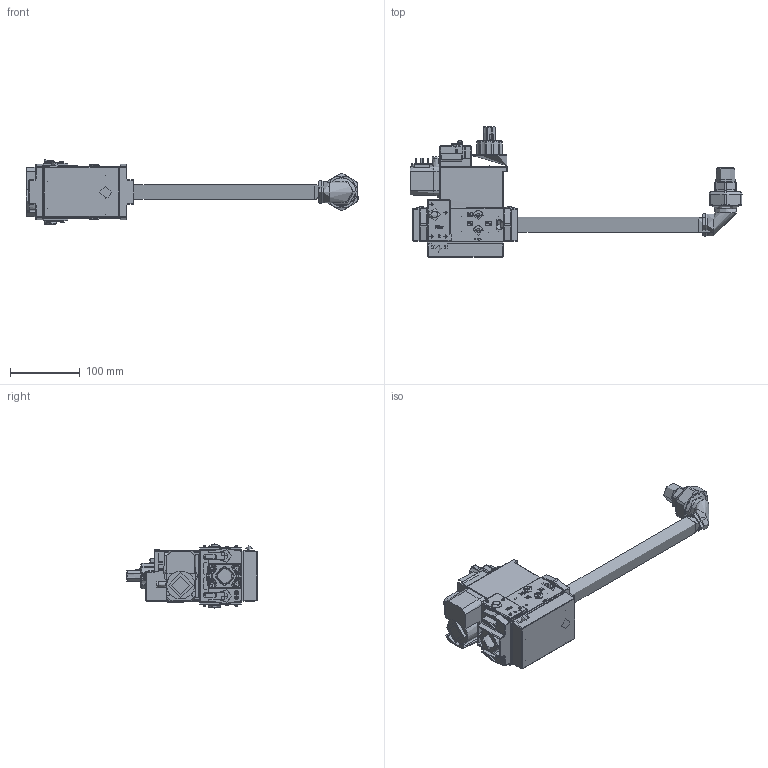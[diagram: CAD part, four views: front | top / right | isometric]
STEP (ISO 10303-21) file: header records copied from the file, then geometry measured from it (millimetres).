
FILE_DESCRIPTION (( 'STEP AP203' ), '1' );
FILE_NAME ('19990545-112368.step', '2016-12-15T10:47:55', ( '' ), ( '' ), 'SwSTEP 2.0', 'SolidWorks 2016', '' );
FILE_SCHEMA (( 'CONFIG_CONTROL_DESIGN' ));
Length unit declared in the file: millimetre
Products named in the file (5): 35370-112369; 18684-102940; 19990545-112368; 23371-112371; 31338-102987
Assembly tree (5 placements, depth 2):
  19990545-112368
    23371-112371
    31338-102987  x2
    35370-112369
    18684-102940
Bounding box: 476.92 x 188 x 92 mm (x, y, z)
Topology: 4 solids, 52 shells, 3571 faces, 8963 edges, 5659 vertices
Faces by surface type: plane 1618, bspline 1018, cylinder 713, cone 169, torus 33, sphere 20
Full cylindrical faces by diameter (mm): 0.7 x2, 1.5 x2, 1.95 x1, 2 x15, 2.45 x1, 2.459 x1, 2.5 x1, 2.6 x1, 2.9 x2, 3.55 x12, 4 x16, 4.5 x2, 5 x2, 7 x9, 8 x2, 9 x2, 10 x2, 10.6 x2, 13.1 x1, 14 x6, 15 x9, 15.2 x1, 15.8 x1, 21.6 x1, 24.117 x1, 26 x1, 26.441 x2, 26.9 x1, 31.1 x2, 35.5 x1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
Entity records: 148719 total; most frequent: CARTESIAN_POINT 83367, ORIENTED_EDGE 15222, DIRECTION 9593, EDGE_CURVE 7616, VERTEX_POINT 4966, LINE 3795, VECTOR 3795, EDGE_LOOP 3641
